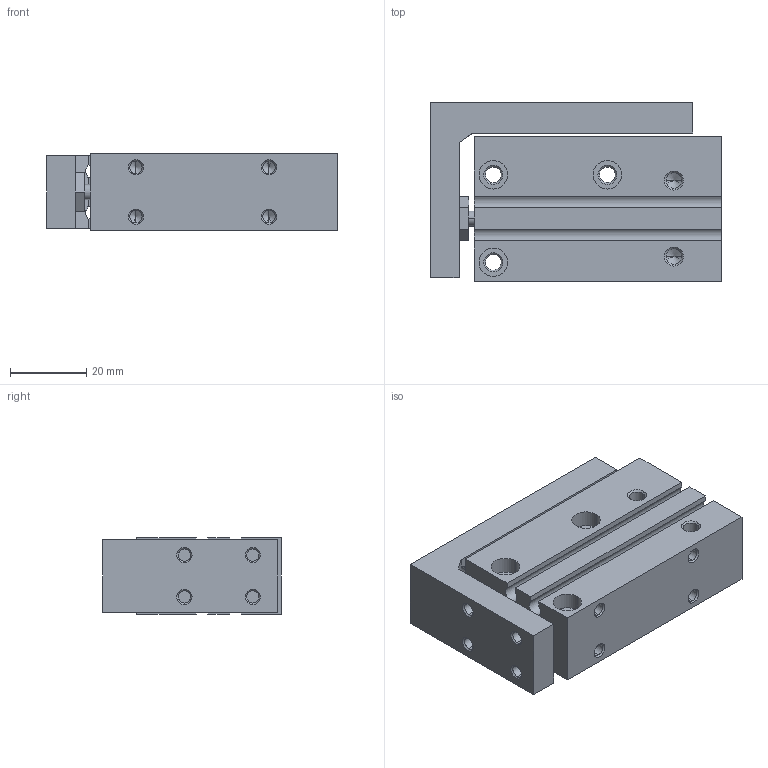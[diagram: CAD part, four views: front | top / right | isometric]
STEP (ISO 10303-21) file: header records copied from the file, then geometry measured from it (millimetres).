
FILE_DESCRIPTION (( 'STEP AP203' ), '1' );
FILE_NAME ('CXH10-30.STEP', '2020-04-16T18:07:46', ( '' ), ( '' ), 'SwSTEP 2.0', 'SolidWorks 2019', '' );
FILE_SCHEMA (( 'CONFIG_CONTROL_DESIGN' ));
Length unit declared in the file: millimetre
Products named in the file (1): CXH10-30
Bounding box: 76.5 x 47 x 20 mm (x, y, z)
Volume: 56167.1 mm3; surface area: 22474 mm2
Topology: 2 solids, 2 shells, 208 faces, 495 edges, 286 vertices
Faces by surface type: cone 88, cylinder 76, plane 44
Entity records: 5972 total; most frequent: DIRECTION 1093, CARTESIAN_POINT 1048, ORIENTED_EDGE 934, EDGE_CURVE 467, AXIS2_PLACEMENT_3D 421, VERTEX_POINT 286, EDGE_LOOP 253, LINE 251
